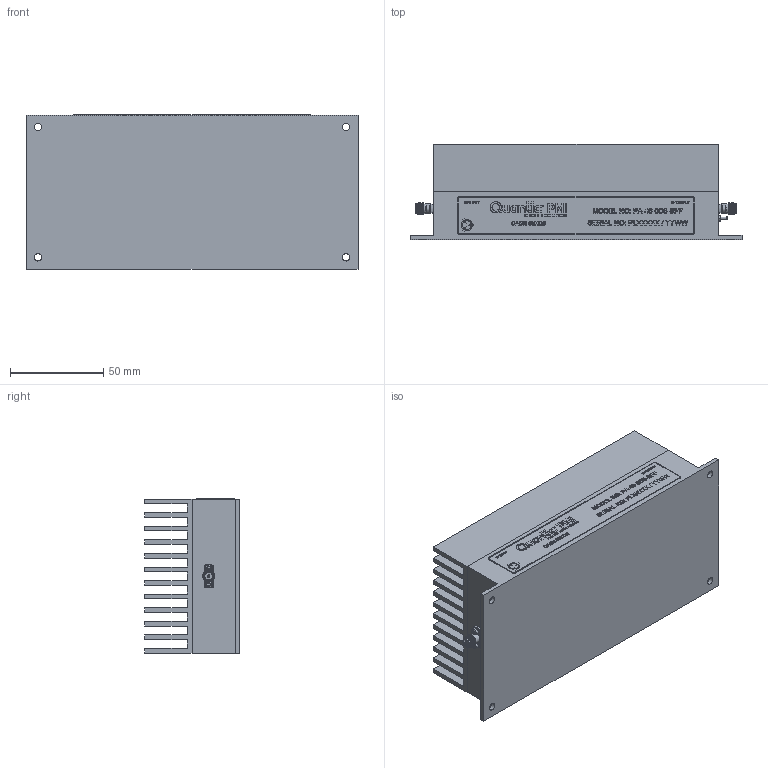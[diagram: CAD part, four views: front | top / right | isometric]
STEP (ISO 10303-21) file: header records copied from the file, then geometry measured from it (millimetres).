
FILE_DESCRIPTION (( 'STEP AP214' ), '1' );
FILE_NAME ('PA-46-0D5-SFF.STEP', '2025-01-14T14:45:04', ( '' ), ( '' ), 'SwSTEP 2.0', 'SolidWorks 2024', '' );
FILE_SCHEMA (( 'AUTOMOTIVE_DESIGN' ));
Length unit declared in the file: inch
Products named in the file (1): PA-46-0D5-SFF
Bounding box: 177.8 x 50.8 x 82.68 mm (x, y, z)
Volume: 463698.8 mm3; surface area: 159440.1 mm2
Topology: 27 solids, 27 shells, 744 faces, 2637 edges, 2061 vertices
Faces by surface type: plane 397, cylinder 112, sphere 68, torus 66, bspline 63, cone 38
Full cylindrical faces by diameter (mm): 0.305 x2, 0.559 x2, 1.016 x2, 1.067 x2, 1.27 x2, 1.93 x2, 2.184 x6, 2.591 x4, 3.302 x2, 3.556 x4, 3.969 x4, 4.191 x4, 4.597 x2, 5.283 x4
Entity records: 45401 total; most frequent: CARTESIAN_POINT 13901, ORIENTED_EDGE 4962, DIRECTION 3730, EDGE_CURVE 2481, VERTEX_POINT 2043, VECTOR 1350, LINE 1350, AXIS2_PLACEMENT_3D 1190
